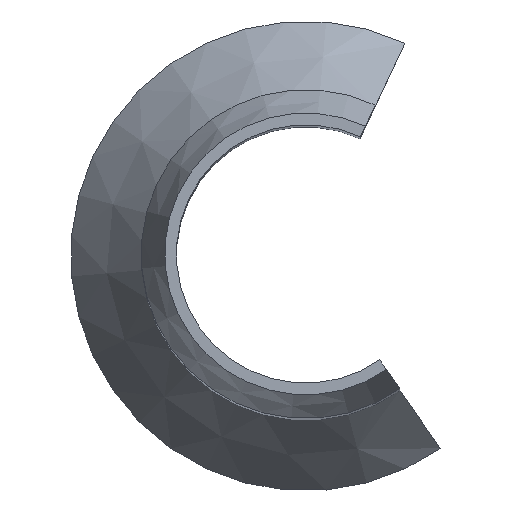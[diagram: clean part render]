
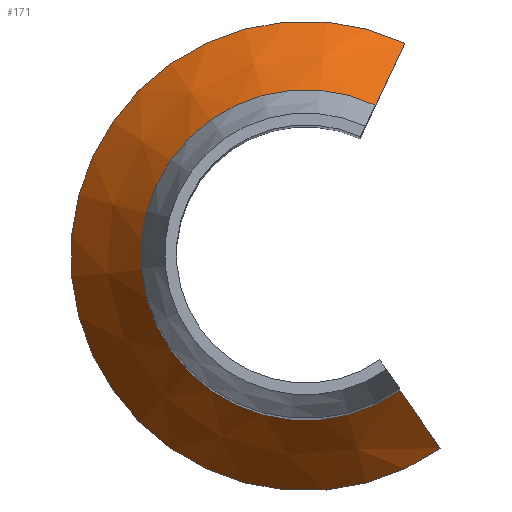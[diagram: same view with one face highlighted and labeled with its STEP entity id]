
A CAD part, top view. The second image highlights one B-rep face of the part: STEP entity #171.
In plain terms, the highlighted conical face has half-angle 36.87 degrees and reference radius 4 mm.
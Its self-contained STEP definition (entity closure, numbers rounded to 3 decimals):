
#22 = VERTEX_POINT('',#23);
#23 = CARTESIAN_POINT('',(1.183,2.538,1.6));
#31 = EDGE_CURVE('',#22,#32,#34,.T.);
#32 = VERTEX_POINT('',#33);
#33 = CARTESIAN_POINT('',(1.606,-2.294,1.6));
#34 = CIRCLE('',#35,2.8);
#35 = AXIS2_PLACEMENT_3D('',#36,#37,#38);
#36 = CARTESIAN_POINT('',(0.,0.,1.6));
#37 = DIRECTION('',(-0.,0.,1.));
#38 = DIRECTION('',(0.,-1.,0.));
#66 = VERTEX_POINT('',#67);
#67 = CARTESIAN_POINT('',(1.69,3.625,0.));
#96 = EDGE_CURVE('',#22,#66,#97,.T.);
#97 = LINE('',#98,#99);
#98 = CARTESIAN_POINT('',(0.,0.,5.333));
#99 = VECTOR('',#100,1.);
#100 = DIRECTION('',(0.254,0.544,-0.8));
#135 = EDGE_CURVE('',#32,#136,#138,.T.);
#136 = VERTEX_POINT('',#137);
#137 = CARTESIAN_POINT('',(2.294,-3.277,0.));
#138 = LINE('',#139,#140);
#139 = CARTESIAN_POINT('',(0.,0.,5.333));
#140 = VECTOR('',#141,1.);
#141 = DIRECTION('',(0.344,-0.491,-0.8));
#171 = ADVANCED_FACE('',(#172),#184,.T.);
#172 = FACE_BOUND('',#173,.T.);
#173 = EDGE_LOOP('',(#174,#175,#176,#183));
#174 = ORIENTED_EDGE('',*,*,#31,.F.);
#175 = ORIENTED_EDGE('',*,*,#96,.T.);
#176 = ORIENTED_EDGE('',*,*,#177,.T.);
#177 = EDGE_CURVE('',#66,#136,#178,.T.);
#178 = CIRCLE('',#179,4.);
#179 = AXIS2_PLACEMENT_3D('',#180,#181,#182);
#180 = CARTESIAN_POINT('',(0.,0.,0.));
#181 = DIRECTION('',(0.,0.,1.));
#182 = DIRECTION('',(1.,0.,0.));
#183 = ORIENTED_EDGE('',*,*,#135,.F.);
#184 = CONICAL_SURFACE('',#185,4.,0.644);
#185 = AXIS2_PLACEMENT_3D('',#186,#187,#188);
#186 = CARTESIAN_POINT('',(0.,0.,0.));
#187 = DIRECTION('',(-0.,-0.,-1.));
#188 = DIRECTION('',(1.,0.,0.));
